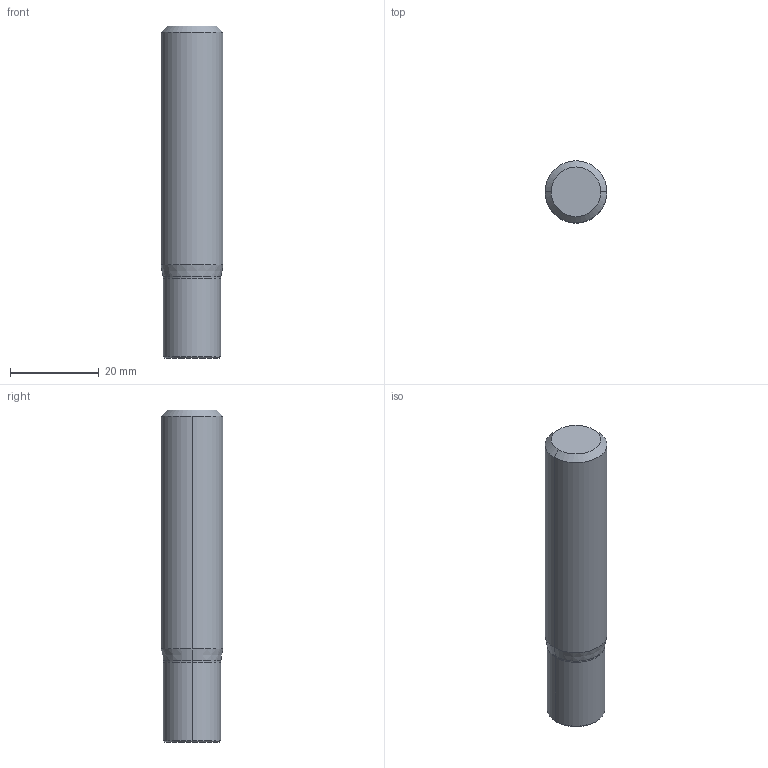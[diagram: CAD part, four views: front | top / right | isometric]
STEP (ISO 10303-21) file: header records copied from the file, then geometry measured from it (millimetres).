
FILE_DESCRIPTION (( 'STEP AP214' ), '1' );
FILE_NAME ('831.130.00_3D-model.step', '2022-02-19T10:42:25', ( '' ), ( '' ), 'SwSTEP 2.0', 'SolidWorks 2020', '' );
FILE_SCHEMA (( 'AUTOMOTIVE_DESIGN' ));
Length unit declared in the file: millimetre
Products named in the file (3): CUT-3D^Baugr56; 831.130.00_3D-model; NOCUT-3D^Baugr56
Assembly tree (2 placements, depth 2):
  831.130.00_3D-model
    CUT-3D^Baugr56
    NOCUT-3D^Baugr56
Bounding box: 14 x 14 x 75 mm (x, y, z)
Volume: 11087.5 mm3; surface area: 3745.2 mm2
Topology: 2 solids, 2 shells, 16 faces, 28 edges, 16 vertices
Faces by surface type: cone 6, cylinder 4, plane 4, torus 2
Entity records: 508 total; most frequent: DIRECTION 94, CARTESIAN_POINT 68, ORIENTED_EDGE 56, AXIS2_PLACEMENT_3D 42, EDGE_CURVE 28, CIRCLE 18, EDGE_LOOP 16, VERTEX_POINT 16
